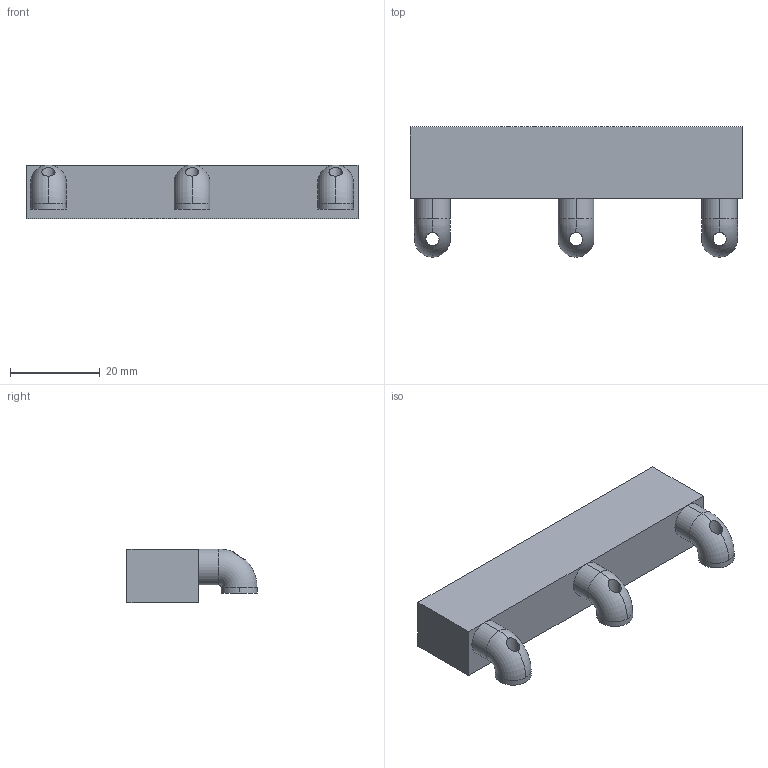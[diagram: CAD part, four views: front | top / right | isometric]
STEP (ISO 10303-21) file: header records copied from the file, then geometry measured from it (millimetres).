
FILE_DESCRIPTION (( 'STEP AP203' ), '1' );
FILE_NAME ('SQ00H.STEP', '2020-02-12T07:44:31', ( 'Windows 蚚誧' ), ( '' ), 'SwSTEP 2.0', 'SolidWorks 2012', '' );
FILE_SCHEMA (( 'CONFIG_CONTROL_DESIGN' ));
Length unit declared in the file: millimetre
Products named in the file (1): SQ00H
Bounding box: 74 x 29 x 12 mm (x, y, z)
Volume: 15706.4 mm3; surface area: 6050.8 mm2
Topology: 1 solids, 1 shells, 45 faces, 114 edges, 72 vertices
Faces by surface type: cylinder 26, plane 13, torus 6
Entity records: 1570 total; most frequent: CARTESIAN_POINT 364, DIRECTION 255, ORIENTED_EDGE 228, EDGE_CURVE 114, AXIS2_PLACEMENT_3D 107, VERTEX_POINT 72, CIRCLE 61, EDGE_LOOP 52
